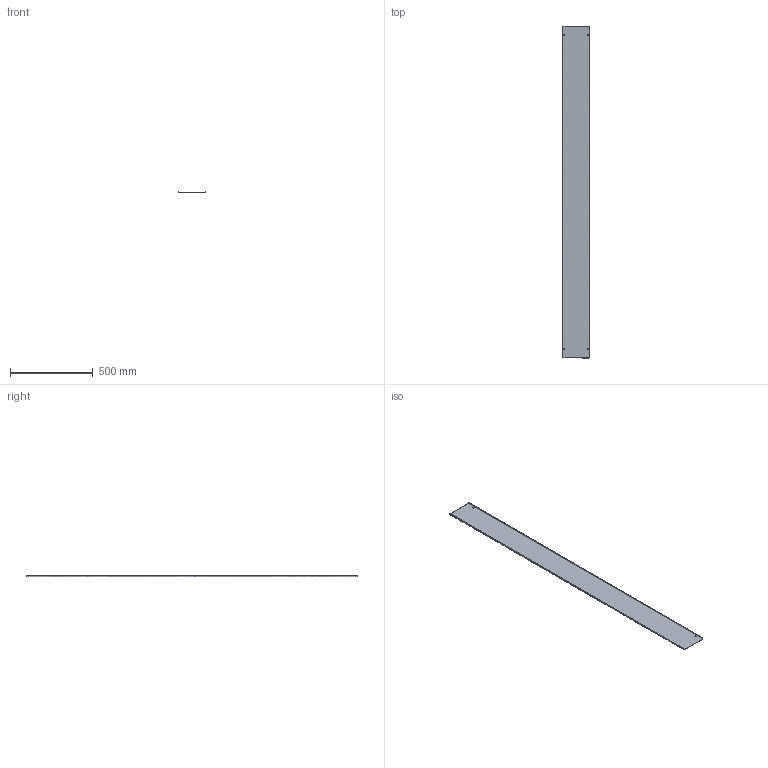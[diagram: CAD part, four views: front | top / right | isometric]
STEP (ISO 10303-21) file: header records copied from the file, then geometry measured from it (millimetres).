
FILE_DESCRIPTION(/* description */ (''),/* implementation_level */ '2;1');
FILE_NAME(/* name */ 'VZM150',/* time_stamp */ '2012-11-29T22:52:32+01:00',/* author */ (''),/* organization */ (''),/* preprocessor_version */ 'ST-DEVELOPER v10',/* originating_system */ '',/* authorisation */ '');
FILE_SCHEMA (('AUTOMOTIVE_DESIGN_CC2'));
Length unit declared in the file: millimetre
Products named in the file (1): 1
Bounding box: 161 x 2002 x 10.5 mm (x, y, z)
Surface area: 710863.9 mm2 (no closed solid volume)
Topology: 0 solids, 22 shells, 22 faces, 120 edges, 120 vertices
Faces by surface type: plane 18, bspline 4
Entity records: 1488 total; most frequent: CARTESIAN_POINT 644, ORIENTED_EDGE 120, EDGE_CURVE 120, VERTEX_POINT 120, B_SPLINE_CURVE_WITH_KNOTS 104, EDGE_LOOP 30, COLOUR_RGB 22, FILL_AREA_STYLE_COLOUR 22
